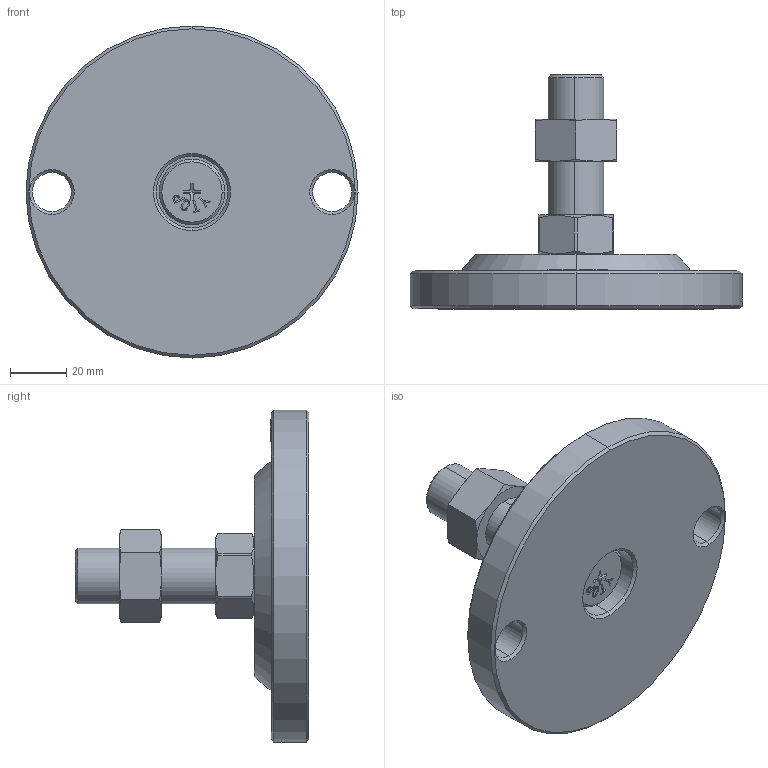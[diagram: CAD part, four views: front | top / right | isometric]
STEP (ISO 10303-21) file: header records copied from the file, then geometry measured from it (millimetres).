
FILE_DESCRIPTION (( 'STEP AP203' ), '1' );
FILE_NAME ('KL-120-2050-P.STEP', '2020-09-10T02:34:53', ( '' ), ( '' ), 'SwSTEP 2.0', 'SolidWorks 2016', '' );
FILE_SCHEMA (( 'CONFIG_CONTROL_DESIGN' ));
Length unit declared in the file: millimetre
Products named in the file (5): KL-120-2050-P; 螺丝平底十字带商标M10系列_M10X14; 眻芛蹟邡M20炵蹈_M20X50; KL-120-0.1 KL120菁釱; 脚垫调节六角螺母M20
Assembly tree (4 placements, depth 2):
  KL-120-2050-P
    KL-120-0.1 KL120菁釱
    眻芛蹟邡M20炵蹈_M20X50
    螺丝平底十字带商标M10系列_M10X14
    脚垫调节六角螺母M20
Bounding box: 118.5 x 83.5 x 118.5 mm (x, y, z)
Volume: 200046.1 mm3; surface area: 39698.9 mm2
Topology: 4 solids, 4 shells, 211 faces, 514 edges, 326 vertices
Faces by surface type: plane 101, cone 54, cylinder 32, bspline 24
Entity records: 8435 total; most frequent: CARTESIAN_POINT 3158, ORIENTED_EDGE 1020, DIRECTION 902, EDGE_CURVE 510, VERTEX_POINT 326, AXIS2_PLACEMENT_3D 306, LINE 290, VECTOR 290
